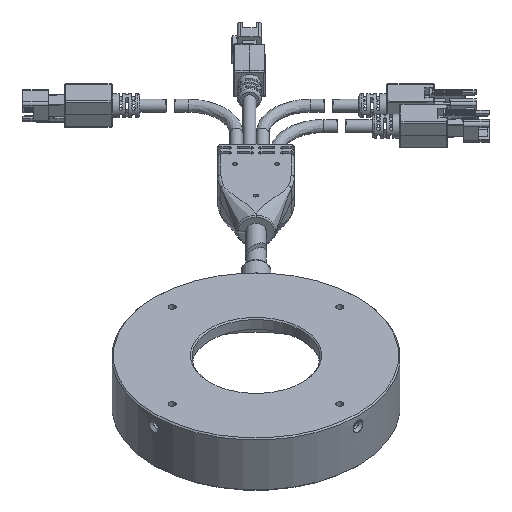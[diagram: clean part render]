
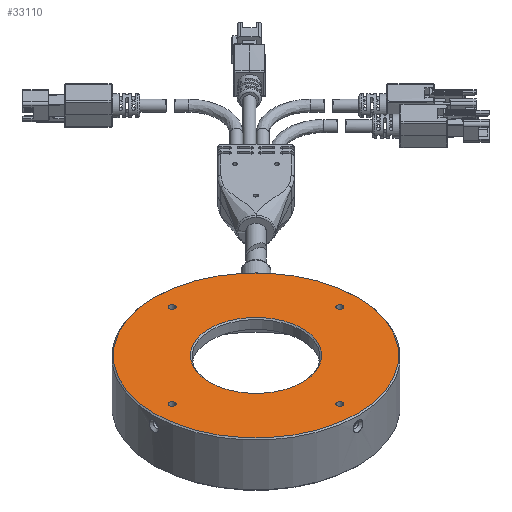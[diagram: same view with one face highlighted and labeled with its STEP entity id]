
A CAD part, isometric view. The second image highlights one B-rep face of the part: STEP entity #33110.
In plain terms, the highlighted planar face has unit normal (0, 0, 1).
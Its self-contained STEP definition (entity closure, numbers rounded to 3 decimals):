
#180 = CARTESIAN_POINT ( 'NONE',  ( 20., 0., 0. ) ) ;
#1084 = VERTEX_POINT ( 'NONE', #40783 ) ;
#2082 = ORIENTED_EDGE ( 'NONE', *, *, #20615, .T. ) ;
#2458 = ORIENTED_EDGE ( 'NONE', *, *, #47578, .F. ) ;
#3247 = EDGE_LOOP ( 'NONE', ( #24828 ) ) ;
#4106 = FACE_BOUND ( 'NONE', #20003, .T. ) ;
#5651 = DIRECTION ( 'NONE',  ( 0., 0., 1. ) ) ;
#6846 = ORIENTED_EDGE ( 'NONE', *, *, #16591, .F. ) ;
#6912 = AXIS2_PLACEMENT_3D ( 'NONE', #22364, #18742, #30443 ) ;
#7268 = CIRCLE ( 'NONE', #28583, 20.5 ) ;
#7837 = CIRCLE ( 'NONE', #49773, 1.25 ) ;
#8979 = CARTESIAN_POINT ( 'NONE',  ( 0., 0., 0. ) ) ;
#9721 = CIRCLE ( 'NONE', #12413, 1.25 ) ;
#11417 = AXIS2_PLACEMENT_3D ( 'NONE', #18321, #41767, #22274 ) ;
#11833 = DIRECTION ( 'NONE',  ( 0., 0., -1. ) ) ;
#12413 = AXIS2_PLACEMENT_3D ( 'NONE', #28597, #5651, #33083 ) ;
#12808 = VERTEX_POINT ( 'NONE', #16511 ) ;
#12923 = DIRECTION ( 'NONE',  ( 0., 0., -1. ) ) ;
#13080 = DIRECTION ( 'NONE',  ( -1., 0., 0. ) ) ;
#13762 = CARTESIAN_POINT ( 'NONE',  ( 1.25, 37., 0. ) ) ;
#14507 = FACE_BOUND ( 'NONE', #3247, .T. ) ;
#15167 = VERTEX_POINT ( 'NONE', #40952 ) ;
#15923 = PLANE ( 'NONE',  #30774 ) ;
#16511 = CARTESIAN_POINT ( 'NONE',  ( -44.5, 0., 0. ) ) ;
#16591 = EDGE_CURVE ( 'NONE', #24423, #24423, #19099, .T. ) ;
#17495 = EDGE_LOOP ( 'NONE', ( #2082 ) ) ;
#17908 = AXIS2_PLACEMENT_3D ( 'NONE', #41513, #48984, #37116 ) ;
#18321 = CARTESIAN_POINT ( 'NONE',  ( 0., 0., 0. ) ) ;
#18742 = DIRECTION ( 'NONE',  ( 0., 0., 1. ) ) ;
#19099 = CIRCLE ( 'NONE', #6912, 1.25 ) ;
#19847 = DIRECTION ( 'NONE',  ( -1., 0., 0. ) ) ;
#20003 = EDGE_LOOP ( 'NONE', ( #6846 ) ) ;
#20010 = FACE_BOUND ( 'NONE', #50511, .T. ) ;
#20615 = EDGE_CURVE ( 'NONE', #12808, #12808, #34656, .T. ) ;
#20887 = ORIENTED_EDGE ( 'NONE', *, *, #40468, .F. ) ;
#21385 = CARTESIAN_POINT ( 'NONE',  ( 0., -37., 0. ) ) ;
#22274 = DIRECTION ( 'NONE',  ( -1., 0., 0. ) ) ;
#22364 = CARTESIAN_POINT ( 'NONE',  ( 37., 0., 0. ) ) ;
#23157 = EDGE_LOOP ( 'NONE', ( #45916 ) ) ;
#24423 = VERTEX_POINT ( 'NONE', #28335 ) ;
#24828 = ORIENTED_EDGE ( 'NONE', *, *, #38108, .F. ) ;
#25162 = DIRECTION ( 'NONE',  ( 0., 0., 1. ) ) ;
#28335 = CARTESIAN_POINT ( 'NONE',  ( 38.25, 0., 0. ) ) ;
#28583 = AXIS2_PLACEMENT_3D ( 'NONE', #8979, #12923, #13080 ) ;
#28597 = CARTESIAN_POINT ( 'NONE',  ( -37., 0., 0. ) ) ;
#29017 = CARTESIAN_POINT ( 'NONE',  ( -35.75, 0., 0. ) ) ;
#29225 = FACE_BOUND ( 'NONE', #23157, .T. ) ;
#30443 = DIRECTION ( 'NONE',  ( 1., 0., 0. ) ) ;
#30774 = AXIS2_PLACEMENT_3D ( 'NONE', #180, #11833, #19847 ) ;
#33083 = DIRECTION ( 'NONE',  ( 1., 0., 0. ) ) ;
#33110 = ADVANCED_FACE ( 'NONE', ( #4106, #20010, #14507, #49931, #29225, #44448 ), #15923, .F. ) ;
#34656 = CIRCLE ( 'NONE', #11417, 44.5 ) ;
#37116 = DIRECTION ( 'NONE',  ( 1., 0., 0. ) ) ;
#38108 = EDGE_CURVE ( 'NONE', #42107, #42107, #9721, .T. ) ;
#39836 = EDGE_CURVE ( 'NONE', #1084, #1084, #7268, .T. ) ;
#40468 = EDGE_CURVE ( 'NONE', #15167, #15167, #7837, .T. ) ;
#40783 = CARTESIAN_POINT ( 'NONE',  ( -20.5, 0., 0. ) ) ;
#40952 = CARTESIAN_POINT ( 'NONE',  ( 1.25, -37., 0. ) ) ;
#41513 = CARTESIAN_POINT ( 'NONE',  ( 0., 37., 0. ) ) ;
#41767 = DIRECTION ( 'NONE',  ( 0., 0., 1. ) ) ;
#42107 = VERTEX_POINT ( 'NONE', #29017 ) ;
#44423 = DIRECTION ( 'NONE',  ( 1., 0., 0. ) ) ;
#44448 = FACE_BOUND ( 'NONE', #50119, .T. ) ;
#45916 = ORIENTED_EDGE ( 'NONE', *, *, #39836, .T. ) ;
#47578 = EDGE_CURVE ( 'NONE', #48151, #48151, #49457, .T. ) ;
#48151 = VERTEX_POINT ( 'NONE', #13762 ) ;
#48984 = DIRECTION ( 'NONE',  ( 0., 0., 1. ) ) ;
#49457 = CIRCLE ( 'NONE', #17908, 1.25 ) ;
#49773 = AXIS2_PLACEMENT_3D ( 'NONE', #21385, #25162, #44423 ) ;
#49931 = FACE_OUTER_BOUND ( 'NONE', #17495, .T. ) ;
#50119 = EDGE_LOOP ( 'NONE', ( #20887 ) ) ;
#50511 = EDGE_LOOP ( 'NONE', ( #2458 ) ) ;
